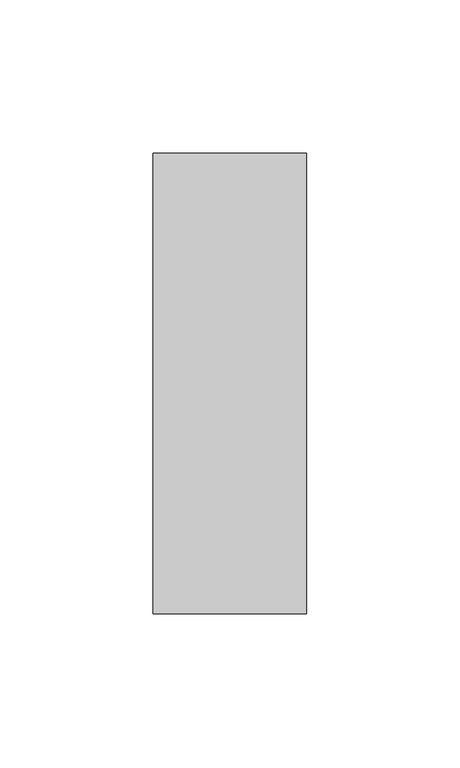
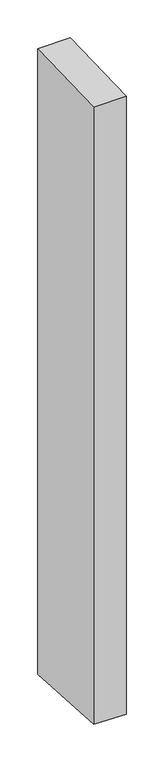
"""IFC4 building model written with IfcOpenShell, lengths in millimetres: member geometry, Прямоугольный импост : 50 x 150 мм."""

from ifc_helpers import new_model, si_unit, origin, place, context, project, spatial, faceted_brep, source, transform, mapped, element, save


def member_bc505ca9(model_context):
    return source(origin(), model_context, "Body", "Brep", [
        faceted_brep([(-25.0, 75.0, 2.0214099), (25.0, 75.0, 2.6318345), (25.0, 75.0, -1015.9675311), (-25.0, 75.0, -1015.3346187), (-25.0, -75.0, -2.6318345), (-25.0, -75.0, -1006.1666666), (25.0, -75.0, -2.0214099), (25.0, -75.0, -1006.7995789)], [[[0, 1, 2, 3]], [[4, 0, 3, 5]], [[6, 4, 5, 7]], [[1, 6, 7, 2]], [[1, 0, 4, 6]], [[2, 7, 5, 3]]]),
    ])


if __name__ == "__main__":
    model = new_model("IFC4")
    model_context = context("Model", 3, world=origin())
    ifc_project = project(units=[si_unit("LENGTHUNIT", "METRE", prefix="MILLI")], contexts=[model_context])
    site = spatial("IfcSite", under=ifc_project)
    building = spatial("IfcBuilding", under=site)
    placement = place(None, origin())
    member_shape = member_bc505ca9(model_context)
    element("IfcMember", 1, ObjectType="Прямоугольный импост : 50 x 150 мм", at=placement, inside=building, context=model_context, shape_type="MappedRepresentation", body=[
        mapped(member_shape, transform((0.0, 0.0, 0.0), x_axis=(1.0, 0.0, 0.0), y_axis=(0.0, 1.0, 0.0), z_axis=(0.0, 0.0, 1.0))),
    ])
    save(model, "model.ifc")
